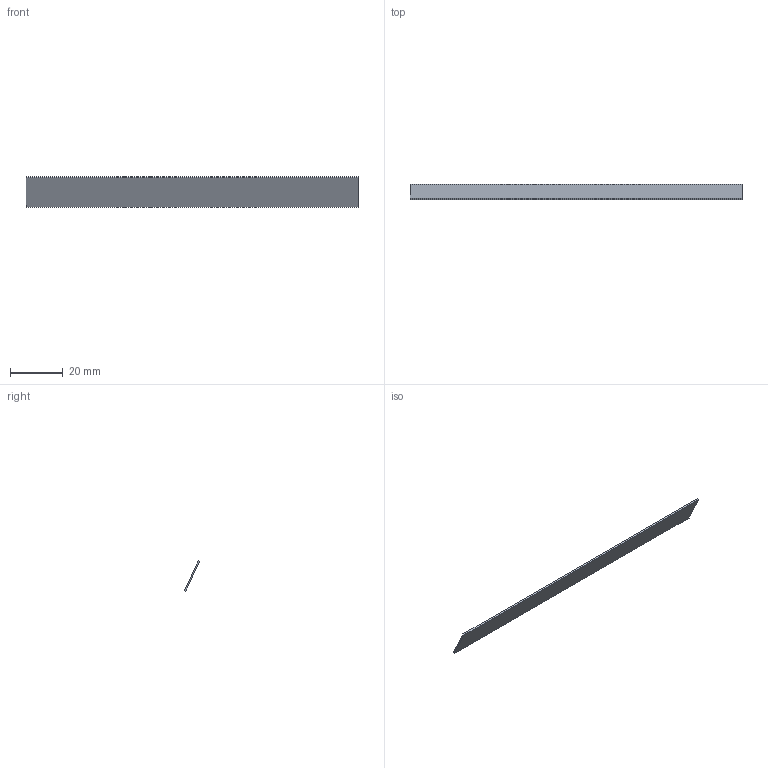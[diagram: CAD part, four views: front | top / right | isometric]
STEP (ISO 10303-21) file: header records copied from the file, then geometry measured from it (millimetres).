
FILE_DESCRIPTION(('Open CASCADE Model'),'2;1');
FILE_NAME('SOLID','2026-10-21T18:57:51',('Author'),('Open CASCADE'), 'Open CASCADE STEP processor 8.0','build123d','Unknown');
FILE_SCHEMA(('AUTOMOTIVE_DESIGN { 1 0 10303 214 1 1 1 1 }'));
Length unit declared in the file: millimetre
Products named in the file (2): SOLID
Assembly tree (1 placements, depth 2):
  SOLID
    SOLID
Bounding box: 125.85 x 5.74 x 11.4 mm (x, y, z)
Volume: 928.8 mm3; surface area: 3261.7 mm2
Topology: 1 solids, 1 shells, 6 faces, 12 edges, 8 vertices
Faces by surface type: plane 6
Entity records: 328 total; most frequent: CARTESIAN_POINT 64, DIRECTION 40, ORIENTED_EDGE 24, LINE 24, VECTOR 24, PCURVE 24, DEFINITIONAL_REPRESENTATION 24, EDGE_CURVE 12
